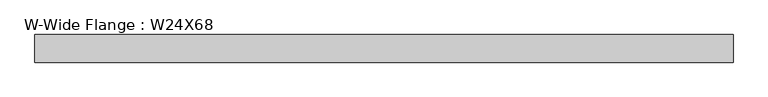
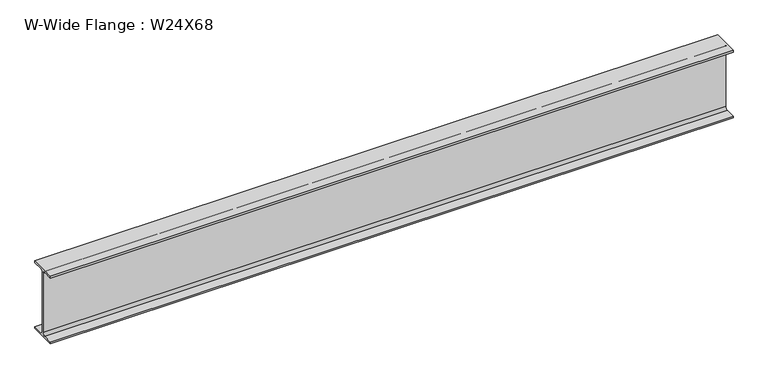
"""IFC4 building model written with IfcOpenShell, lengths in millimetres: beam geometry, W-Wide Flange : W24X68."""

from ifc_helpers import new_model, si_unit, point, frame, frame_2d, origin, place, context, project, spatial, polyline, circle_curve, trimmed, segment, composite_curve, outline, extrude, source, transform, mapped, element, save


def w_wide_flange_w24x68_22df418c(model_context):
    return source(origin(), model_context, "Body", "SweptSolid", [
        extrude(outline(composite_curve([segment(polyline([(113.919, -286.131), (113.919, -300.99), (-113.919, -300.99), (-113.919, -286.131), (-28.5115, -286.131)]), True, "CONTINUOUS"), segment(trimmed(circle_curve(frame_2d((-28.5115, -262.89)), 23.241), [point((-28.5115, -286.131))], [point((-5.2705, -262.89))], True, "CARTESIAN"), True, "CONTINUOUS"), segment(polyline([(-5.2705, -262.89), (-5.2705, 262.89)]), True, "CONTINUOUS"), segment(trimmed(circle_curve(frame_2d((-28.5115, 262.89)), 23.241), [point((-5.2705, 262.89))], [point((-28.5115, 286.131))], True, "CARTESIAN"), True, "CONTINUOUS"), segment(polyline([(-28.5115, 286.131), (-113.919, 286.131), (-113.919, 300.99), (113.919, 300.99), (113.919, 286.131), (28.5115, 286.131)]), True, "CONTINUOUS"), segment(trimmed(circle_curve(frame_2d((28.5115, 262.89)), 23.241), [point((28.5115, 286.131))], [point((5.2705, 262.89))], True, "CARTESIAN"), True, "CONTINUOUS"), segment(polyline([(5.2705, 262.89), (5.2705, -262.89)]), True, "CONTINUOUS"), segment(trimmed(circle_curve(frame_2d((28.5115, -262.89)), 23.241), [point((5.2705, -262.89))], [point((28.5115, -286.131))], True, "CARTESIAN"), True, "CONTINUOUS"), segment(polyline([(28.5115, -286.131), (113.919, -286.131)]), True, "CONTINUOUS")], self_intersect=False)), frame((-2881.63, 0.0, 0.0), z_axis=(1.0, 0.0, 0.0), x_axis=(0.0, 1.0, 0.0)), (0.0, 0.0, 1.0), 5763.26),
    ])


if __name__ == "__main__":
    model = new_model("IFC4")
    model_context = context("Model", 3, world=origin())
    ifc_project = project(units=[si_unit("LENGTHUNIT", "METRE", prefix="MILLI")], contexts=[model_context])
    site = spatial("IfcSite", under=ifc_project)
    building = spatial("IfcBuilding", under=site)
    placement = place(None, origin())
    w_wide_flange_w24x68_shape = w_wide_flange_w24x68_22df418c(model_context)
    element("IfcBeam", 1, ObjectType="W-Wide Flange : W24X68", at=placement, inside=building, context=model_context, shape_type="MappedRepresentation", body=[
        mapped(w_wide_flange_w24x68_shape, transform((0.0, 0.0, 0.0), x_axis=(1.0, 0.0, 0.0), y_axis=(0.0, 1.0, 0.0), z_axis=(0.0, 0.0, 1.0))),
    ])
    save(model, "model.ifc")
